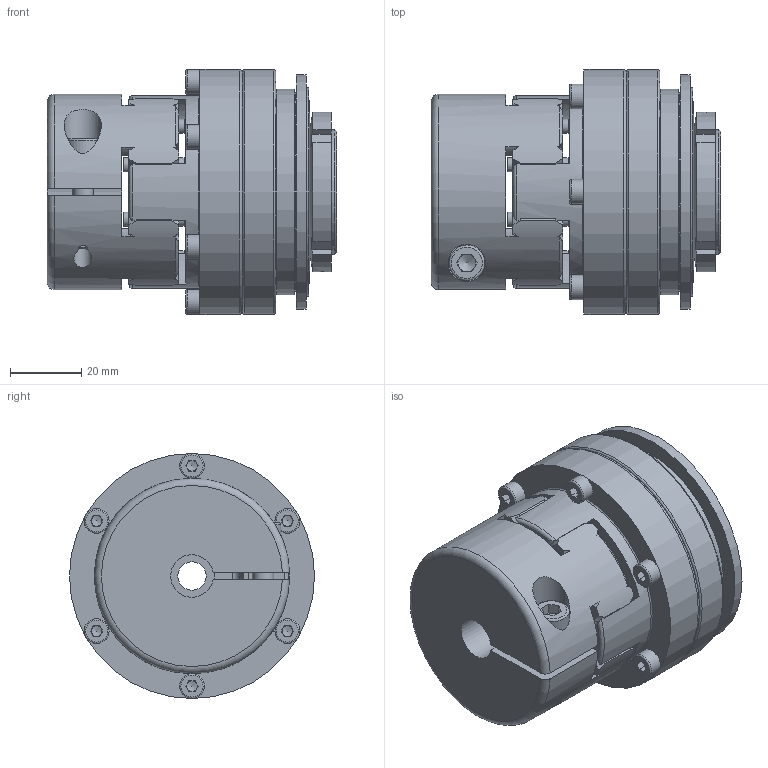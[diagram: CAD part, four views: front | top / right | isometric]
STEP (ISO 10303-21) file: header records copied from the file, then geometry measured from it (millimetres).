
FILE_DESCRIPTION( ( 'Unknown' ), '1' );
FILE_NAME( 'F:/JAKOB-STEP+IGES-Dateien/STEP-Dateien/SKW-EK/SKW-EK 15.stp', 'Unknown', ( 'Unknown' ), ( 'Unknown' ), 'PSStep 10.1', 'Unknown', ' ' );
FILE_SCHEMA( ( 'AUTOMOTIVE_DESIGN { 1 0 10303 214 1 1 1 1 }' ) );
Length unit declared in the file: millimetre
Products named in the file (1): SKW 15
Bounding box: 81.5 x 69 x 69 mm (x, y, z)
Volume: 182424.7 mm3; surface area: 58324.1 mm2
Topology: 1 solids, 9 shells, 675 faces, 1851 edges, 1194 vertices
Faces by surface type: plane 319, cylinder 145, cone 71, torus 67, extrusion 61, sphere 12
Full cylindrical faces by diameter (mm): 2 x2, 3.3 x8, 4 x14, 4.3 x6, 6 x1, 6.4 x1, 7 x6, 8 x1, 10 x1, 10.5 x1, 12.5 x1, 27 x2, 28.6 x1, 29.8 x1, 30 x2, 35 x3, 35.2 x1, 36 x1, 38.2 x2, 38.893 x1, 39.293 x1, 47.1 x3, 54.2 x1, 55 x3, 55.8 x2, 58 x1, 66 x1, 69 x2
Entity records: 28149 total; most frequent: CARTESIAN_POINT 6790, ORIENTED_EDGE 3276, DIRECTION 3118, EDGE_CURVE 1638, AXIS2_PLACEMENT_3D 1190, VERTEX_POINT 1118, EDGE_LOOP 889, FACE_OUTER_BOUND 759
